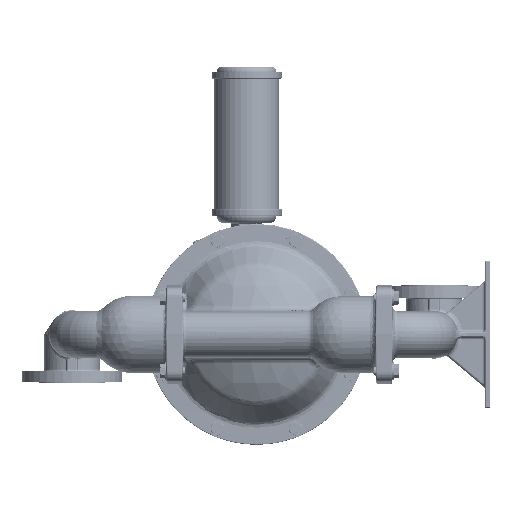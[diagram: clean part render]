
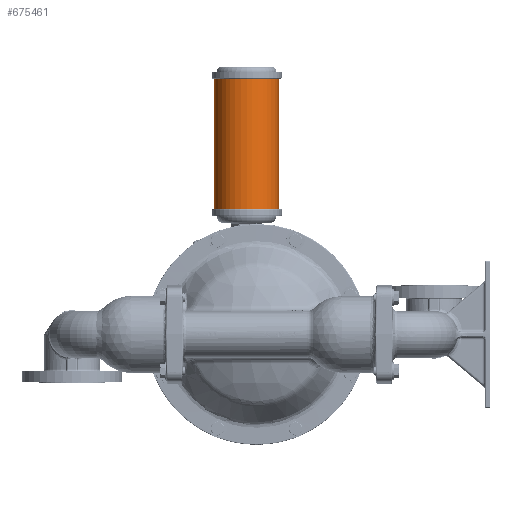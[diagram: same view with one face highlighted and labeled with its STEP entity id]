
A CAD part, left-side view. The second image highlights one B-rep face of the part: STEP entity #675461.
In plain terms, the highlighted cylindrical face has radius 61.722 mm (diameter 123.444 mm), a partial arc.
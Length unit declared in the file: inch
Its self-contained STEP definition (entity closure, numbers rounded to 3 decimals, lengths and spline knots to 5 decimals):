
#28760 = CYLINDRICAL_SURFACE ( 'NONE', #435424, 2.43 ) ;
#36602 = DIRECTION ( 'NONE',  ( 0., -1., 0. ) ) ;
#86028 = CIRCLE ( 'NONE', #162190, 2.43 ) ;
#91187 = DIRECTION ( 'NONE',  ( 0., 0., 1. ) ) ;
#115563 = EDGE_CURVE ( 'NONE', #653058, #388044, #336432, .T. ) ;
#134074 = CARTESIAN_POINT ( 'NONE',  ( 0., -1.68, 19.172 ) ) ;
#151265 = CARTESIAN_POINT ( 'NONE',  ( 0., -1.68, 9.392 ) ) ;
#151491 = DIRECTION ( 'NONE',  ( 0., 1., 0. ) ) ;
#162190 = AXIS2_PLACEMENT_3D ( 'NONE', #458025, #772086, #151491 ) ;
#187596 = ORIENTED_EDGE ( 'NONE', *, *, #303156, .F. ) ;
#223754 = CARTESIAN_POINT ( 'NONE',  ( 0., 3.18, 19.172 ) ) ;
#242319 = CARTESIAN_POINT ( 'NONE',  ( 0., 3.18, 9.392 ) ) ;
#267118 = ORIENTED_EDGE ( 'NONE', *, *, #617738, .T. ) ;
#287410 = CARTESIAN_POINT ( 'NONE',  ( 0., 0.75, 9.392 ) ) ;
#303156 = EDGE_CURVE ( 'NONE', #388044, #573466, #86028, .T. ) ;
#312856 = EDGE_LOOP ( 'NONE', ( #368957, #267118, #187596, #614234 ) ) ;
#334076 = DIRECTION ( 'NONE',  ( 0., 1., 0. ) ) ;
#336432 = LINE ( 'NONE', #579139, #445547 ) ;
#344197 = CIRCLE ( 'NONE', #445972, 2.43 ) ;
#346144 = DIRECTION ( 'NONE',  ( 0., 0., 1. ) ) ;
#368957 = ORIENTED_EDGE ( 'NONE', *, *, #715848, .T. ) ;
#388044 = VERTEX_POINT ( 'NONE', #223754 ) ;
#435424 = AXIS2_PLACEMENT_3D ( 'NONE', #709201, #761078, #36602 ) ;
#445547 = VECTOR ( 'NONE', #451976, 39.37008 ) ;
#445972 = AXIS2_PLACEMENT_3D ( 'NONE', #287410, #91187, #334076 ) ;
#451976 = DIRECTION ( 'NONE',  ( 0., 0., 1. ) ) ;
#458025 = CARTESIAN_POINT ( 'NONE',  ( 0., 0.75, 19.172 ) ) ;
#476530 = CARTESIAN_POINT ( 'NONE',  ( 0., -1.68, 9.392 ) ) ;
#493212 = VERTEX_POINT ( 'NONE', #476530 ) ;
#573466 = VERTEX_POINT ( 'NONE', #134074 ) ;
#579139 = CARTESIAN_POINT ( 'NONE',  ( 0., 3.18, 9.392 ) ) ;
#582000 = FACE_OUTER_BOUND ( 'NONE', #312856, .T. ) ;
#614234 = ORIENTED_EDGE ( 'NONE', *, *, #115563, .F. ) ;
#617738 = EDGE_CURVE ( 'NONE', #493212, #573466, #756229, .T. ) ;
#653058 = VERTEX_POINT ( 'NONE', #242319 ) ;
#666164 = VECTOR ( 'NONE', #346144, 39.37008 ) ;
#675461 = ADVANCED_FACE ( 'NONE', ( #582000 ), #28760, .T. ) ;
#709201 = CARTESIAN_POINT ( 'NONE',  ( 0., 0.75, 20.6595 ) ) ;
#715848 = EDGE_CURVE ( 'NONE', #653058, #493212, #344197, .T. ) ;
#756229 = LINE ( 'NONE', #151265, #666164 ) ;
#761078 = DIRECTION ( 'NONE',  ( 0., 0., -1. ) ) ;
#772086 = DIRECTION ( 'NONE',  ( 0., 0., 1. ) ) ;
